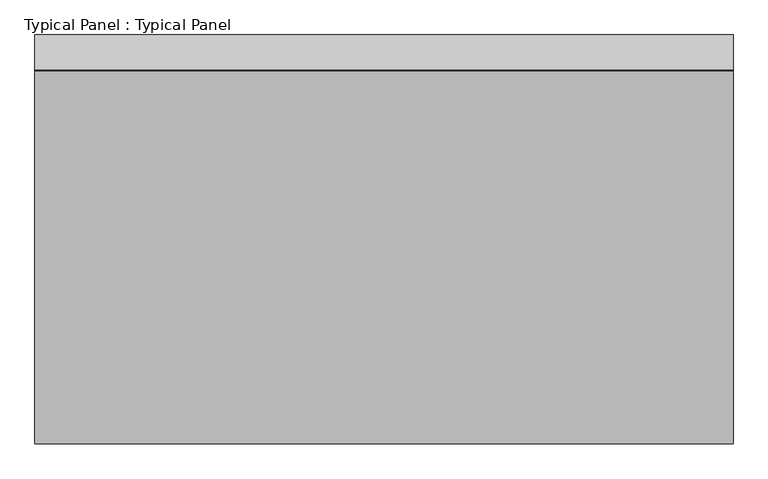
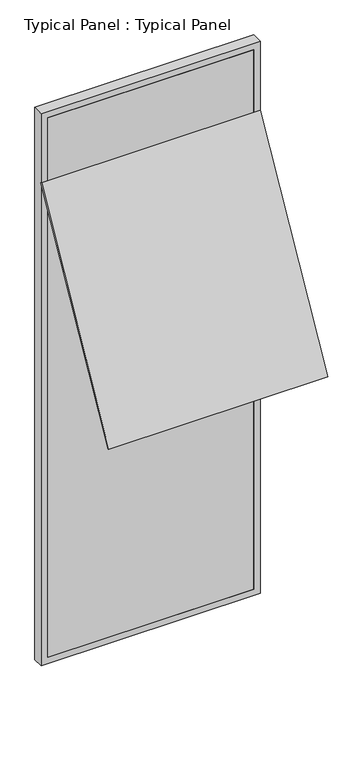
"""IFC4 building model written with IfcOpenShell, lengths in millimetres: plate geometry, Typical Panel : Typical Panel."""

from ifc_helpers import new_model, si_unit, frame, origin, place, context, project, spatial, polyline, outline, extrude, source, transform, mapped, element, save


def typical_panel_typical_panel_3222c149(model_context):
    return source(origin(), model_context, "Body", "SweptSolid", [
        extrude(outline(polyline([(0.0, -10.0), (0.0, 0.0), (1500.0, 0.0), (1500.0, -10.0), (0.0, -10.0)])), frame((750.0, -804.9358734, 2056.8774832), z_axis=(0.0, 0.48480962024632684, 0.8746197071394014), x_axis=(-1.0, 0.0, 0.0)), (0.0, 0.0, 1.0), 1650.0),
        extrude(outline(polyline([(0.0, -750.0), (0.0, 750.0), (4000.0, 750.0), (4000.0, -750.0), (0.0, -750.0)]), holes=[polyline([(45.0, 705.0), (45.0, -705.0), (3955.0, -705.0), (3955.0, 705.0), (45.0, 705.0)])]), frame((0.0, -1.5797986, 0.0), z_axis=(0.0, 1.0, 0.0), x_axis=(0.0, 0.0, 1.0)), (0.0, 0.0, 1.0), 75.0),
        extrude(outline(polyline([(705.0, -1.5797986), (-705.0, -1.5797986), (-705.0, 13.4202014), (705.0, 13.4202014), (705.0, -1.5797986)])), frame((0.0, 0.0, 45.0), z_axis=(0.0, 0.0, 1.0), x_axis=(1.0, 0.0, 0.0)), (0.0, 0.0, 1.0), 3910.0),
    ])


if __name__ == "__main__":
    model = new_model("IFC4")
    model_context = context("Model", 3, world=origin())
    ifc_project = project(units=[si_unit("LENGTHUNIT", "METRE", prefix="MILLI")], contexts=[model_context])
    site = spatial("IfcSite", under=ifc_project)
    building = spatial("IfcBuilding", under=site)
    placement = place(None, origin())
    typical_panel_typical_panel_shape = typical_panel_typical_panel_3222c149(model_context)
    element("IfcPlate", 1, ObjectType="Typical Panel : Typical Panel", at=placement, inside=building, context=model_context, shape_type="MappedRepresentation", body=[
        mapped(typical_panel_typical_panel_shape, transform((0.0, 0.0, 0.0), x_axis=(1.0, 0.0, 0.0), y_axis=(0.0, 1.0, 0.0), z_axis=(0.0, 0.0, 1.0))),
    ])
    save(model, "model.ifc")
